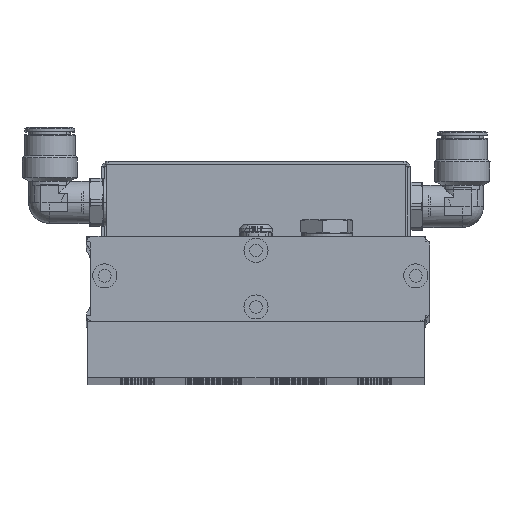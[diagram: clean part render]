
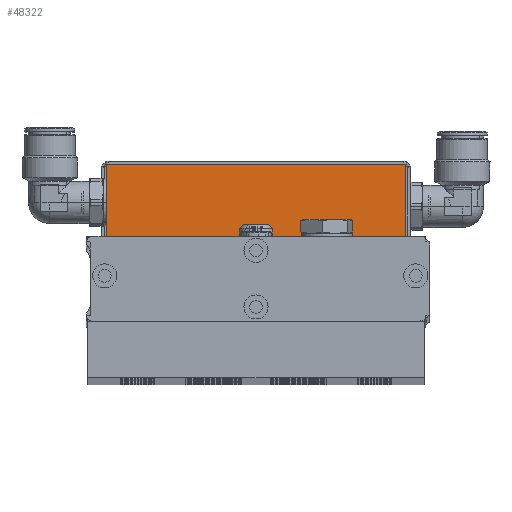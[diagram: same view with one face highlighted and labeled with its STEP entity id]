
A CAD part, top view. The second image highlights one B-rep face of the part: STEP entity #48322.
In plain terms, the highlighted planar face has unit normal (0, 0, 1).
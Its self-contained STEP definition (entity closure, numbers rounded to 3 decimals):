
#154 = EDGE_LOOP ( 'NONE', ( #63464, #45220, #58783, #12139, #26296, #5712 ) ) ;
#927 = CARTESIAN_POINT ( 'NONE',  ( -23.1, 4.7, 404.5 ) ) ;
#2165 = VERTEX_POINT ( 'NONE', #20555 ) ;
#2168 = EDGE_CURVE ( 'NONE', #58260, #2165, #48656, .T. ) ;
#4380 = CARTESIAN_POINT ( 'NONE',  ( 29.9, -20.3, 404.5 ) ) ;
#5712 = ORIENTED_EDGE ( 'NONE', *, *, #61331, .T. ) ;
#6987 = DIRECTION ( 'NONE',  ( -1., 0., 0. ) ) ;
#7574 = LINE ( 'NONE', #27673, #68913 ) ;
#12139 = ORIENTED_EDGE ( 'NONE', *, *, #14333, .T. ) ;
#14333 = EDGE_CURVE ( 'NONE', #2165, #50395, #64467, .T. ) ;
#15153 = VECTOR ( 'NONE', #59651, 1000. ) ;
#15199 = EDGE_CURVE ( 'NONE', #60081, #50395, #18697, .T. ) ;
#16815 = LINE ( 'NONE', #26570, #59311 ) ;
#18697 = LINE ( 'NONE', #23962, #44315 ) ;
#20555 = CARTESIAN_POINT ( 'NONE',  ( 29.9, 4.7, 404.5 ) ) ;
#20647 = CARTESIAN_POINT ( 'NONE',  ( -76.1, -20.3, 404.5 ) ) ;
#21310 = EDGE_CURVE ( 'NONE', #50680, #58260, #7574, .T. ) ;
#21680 = LINE ( 'NONE', #51272, #59079 ) ;
#23962 = CARTESIAN_POINT ( 'NONE',  ( -23.1, 4.7, 404.5 ) ) ;
#26296 = ORIENTED_EDGE ( 'NONE', *, *, #15199, .F. ) ;
#26499 = VERTEX_POINT ( 'NONE', #30664 ) ;
#26570 = CARTESIAN_POINT ( 'NONE',  ( -76.1, -20.3, 404.5 ) ) ;
#27673 = CARTESIAN_POINT ( 'NONE',  ( -76.1, -21.3, 404.5 ) ) ;
#30664 = CARTESIAN_POINT ( 'NONE',  ( -76.1, 4.7, 404.5 ) ) ;
#31321 = DIRECTION ( 'NONE',  ( 0., 1., 0. ) ) ;
#34857 = PLANE ( 'NONE',  #61178 ) ;
#38943 = DIRECTION ( 'NONE',  ( 1., 0., 0. ) ) ;
#43993 = CARTESIAN_POINT ( 'NONE',  ( -76.1, -21.3, 404.5 ) ) ;
#44315 = VECTOR ( 'NONE', #56322, 1000. ) ;
#45220 = ORIENTED_EDGE ( 'NONE', *, *, #21310, .T. ) ;
#48031 = DIRECTION ( 'NONE',  ( 0., 1., 0. ) ) ;
#48322 = ADVANCED_FACE ( 'NONE', ( #67186 ), #34857, .F. ) ;
#48656 = LINE ( 'NONE', #4380, #66510 ) ;
#50395 = VERTEX_POINT ( 'NONE', #67999 ) ;
#50680 = VERTEX_POINT ( 'NONE', #43993 ) ;
#51272 = CARTESIAN_POINT ( 'NONE',  ( -23.1, 4.7, 404.5 ) ) ;
#55527 = EDGE_CURVE ( 'NONE', #50680, #26499, #16815, .T. ) ;
#56322 = DIRECTION ( 'NONE',  ( 1., 0., 0. ) ) ;
#58260 = VERTEX_POINT ( 'NONE', #70696 ) ;
#58783 = ORIENTED_EDGE ( 'NONE', *, *, #2168, .T. ) ;
#59079 = VECTOR ( 'NONE', #6987, 1000. ) ;
#59311 = VECTOR ( 'NONE', #48031, 1000. ) ;
#59651 = DIRECTION ( 'NONE',  ( -1., 0., 0. ) ) ;
#60081 = VERTEX_POINT ( 'NONE', #68932 ) ;
#61178 = AXIS2_PLACEMENT_3D ( 'NONE', #20647, #69021, #63465 ) ;
#61331 = EDGE_CURVE ( 'NONE', #60081, #26499, #21680, .T. ) ;
#63464 = ORIENTED_EDGE ( 'NONE', *, *, #55527, .F. ) ;
#63465 = DIRECTION ( 'NONE',  ( 1., 0., 0. ) ) ;
#64467 = LINE ( 'NONE', #927, #15153 ) ;
#66510 = VECTOR ( 'NONE', #31321, 1000. ) ;
#67186 = FACE_OUTER_BOUND ( 'NONE', #154, .T. ) ;
#67999 = CARTESIAN_POINT ( 'NONE',  ( 29.811, 4.7, 404.5 ) ) ;
#68913 = VECTOR ( 'NONE', #38943, 1000. ) ;
#68932 = CARTESIAN_POINT ( 'NONE',  ( -76.011, 4.7, 404.5 ) ) ;
#69021 = DIRECTION ( 'NONE',  ( 0., 0., -1. ) ) ;
#70696 = CARTESIAN_POINT ( 'NONE',  ( 29.9, -21.3, 404.5 ) ) ;
